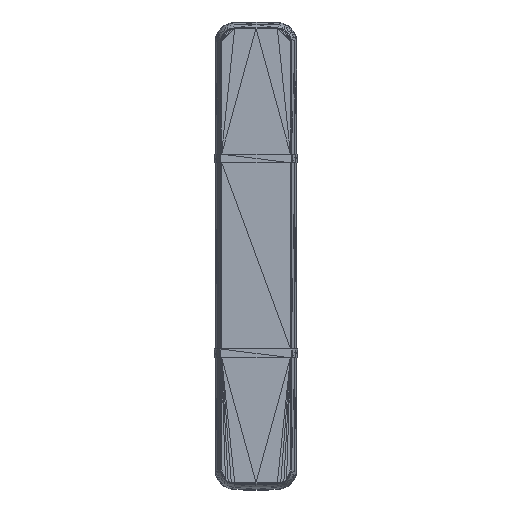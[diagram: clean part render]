
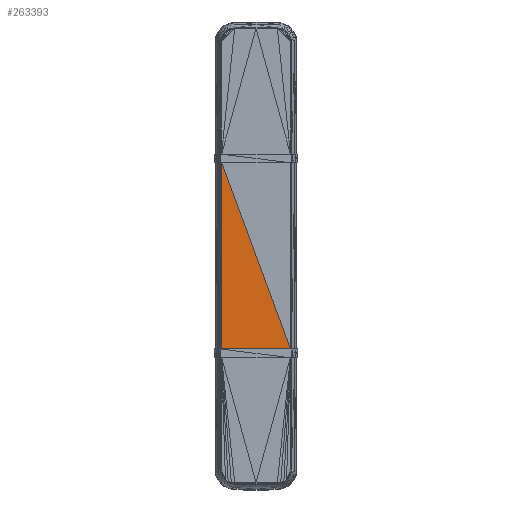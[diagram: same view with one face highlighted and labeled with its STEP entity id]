
A CAD part, top view. The second image highlights one B-rep face of the part: STEP entity #263393.
In plain terms, the highlighted planar face has unit normal (0, 0, 1).
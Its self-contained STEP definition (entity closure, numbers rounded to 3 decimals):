
#258539 = VERTEX_POINT('',#258540);
#258540 = CARTESIAN_POINT('',(233.984,842.,
    65.5));
#258575 = PLANE('',#258576);
#258576 = AXIS2_PLACEMENT_3D('',#258577,#258578,#258579);
#258577 = CARTESIAN_POINT('',(233.825,602.66,
    65.483));
#258578 = DIRECTION('',(-0.106,0.,
    0.994));
#258579 = DIRECTION('',(0.994,0.,
    0.106));
#258681 = PLANE('',#258682);
#258682 = AXIS2_PLACEMENT_3D('',#258683,#258684,#258685);
#258683 = CARTESIAN_POINT('',(358.934,638.864,
    65.5));
#258684 = DIRECTION('',(0.,0.,1.));
#258685 = DIRECTION('',(0.,1.,0.));
#262138 = VERTEX_POINT('',#262139);
#262139 = CARTESIAN_POINT('',(411.157,363.,
    65.5));
#262593 = EDGE_CURVE('',#262594,#258539,#262596,.T.);
#262594 = VERTEX_POINT('',#262595);
#262595 = CARTESIAN_POINT('',(233.984,363.,
    65.5));
#262596 = SURFACE_CURVE('',#262597,(#262601,#262608),.PCURVE_S1.);
#262597 = LINE('',#262598,#262599);
#262598 = CARTESIAN_POINT('',(233.984,363.,
    65.5));
#262599 = VECTOR('',#262600,1.);
#262600 = DIRECTION('',(0.,1.,0.));
#262601 = PCURVE('',#258575,#262602);
#262602 = DEFINITIONAL_REPRESENTATION('',(#262603),#262607);
#262603 = LINE('',#262604,#262605);
#262604 = CARTESIAN_POINT('',(0.16,-239.659));
#262605 = VECTOR('',#262606,1.);
#262606 = DIRECTION('',(0.,1.));
#262607 = ( GEOMETRIC_REPRESENTATION_CONTEXT(2) 
PARAMETRIC_REPRESENTATION_CONTEXT() REPRESENTATION_CONTEXT('2D SPACE',''
  ) );
#262608 = PCURVE('',#262609,#262614);
#262609 = PLANE('',#262610);
#262610 = AXIS2_PLACEMENT_3D('',#262611,#262612,#262613);
#262611 = CARTESIAN_POINT('',(286.206,566.136,
    65.5));
#262612 = DIRECTION('',(0.,0.,1.));
#262613 = DIRECTION('',(1.,0.,0.));
#262614 = DEFINITIONAL_REPRESENTATION('',(#262615),#262618);
#262615 = B_SPLINE_CURVE_WITH_KNOTS('',1,(#262616,#262617),
  .UNSPECIFIED.,.F.,.F.,(2,2),(0.,479.),
  .PIECEWISE_BEZIER_KNOTS.);
#262616 = CARTESIAN_POINT('',(-52.222,-203.136));
#262617 = CARTESIAN_POINT('',(-52.222,275.864));
#262618 = ( GEOMETRIC_REPRESENTATION_CONTEXT(2) 
PARAMETRIC_REPRESENTATION_CONTEXT() REPRESENTATION_CONTEXT('2D SPACE',''
  ) );
#263374 = EDGE_CURVE('',#258539,#262138,#263375,.T.);
#263375 = SURFACE_CURVE('',#263376,(#263380,#263387),.PCURVE_S1.);
#263376 = LINE('',#263377,#263378);
#263377 = CARTESIAN_POINT('',(233.984,842.,
    65.5));
#263378 = VECTOR('',#263379,1.);
#263379 = DIRECTION('',(0.347,-0.938,0.));
#263380 = PCURVE('',#258681,#263381);
#263381 = DEFINITIONAL_REPRESENTATION('',(#263382),#263386);
#263382 = LINE('',#263383,#263384);
#263383 = CARTESIAN_POINT('',(203.136,124.951));
#263384 = VECTOR('',#263385,1.);
#263385 = DIRECTION('',(-0.938,-0.347));
#263386 = ( GEOMETRIC_REPRESENTATION_CONTEXT(2) 
PARAMETRIC_REPRESENTATION_CONTEXT() REPRESENTATION_CONTEXT('2D SPACE',''
  ) );
#263387 = PCURVE('',#262609,#263388);
#263388 = DEFINITIONAL_REPRESENTATION('',(#263389),#263392);
#263389 = B_SPLINE_CURVE_WITH_KNOTS('',1,(#263390,#263391),
  .UNSPECIFIED.,.F.,.F.,(2,2),(0.,510.716),
  .PIECEWISE_BEZIER_KNOTS.);
#263390 = CARTESIAN_POINT('',(-52.222,275.864));
#263391 = CARTESIAN_POINT('',(124.951,-203.136));
#263392 = ( GEOMETRIC_REPRESENTATION_CONTEXT(2) 
PARAMETRIC_REPRESENTATION_CONTEXT() REPRESENTATION_CONTEXT('2D SPACE',''
  ) );
#263393 = ADVANCED_FACE('',(#263394),#262609,.T.);
#263394 = FACE_BOUND('',#263395,.T.);
#263395 = EDGE_LOOP('',(#263396,#263421,#263422));
#263396 = ORIENTED_EDGE('',*,*,#263397,.T.);
#263397 = EDGE_CURVE('',#262594,#262138,#263398,.T.);
#263398 = SURFACE_CURVE('',#263399,(#263403,#263410),.PCURVE_S1.);
#263399 = LINE('',#263400,#263401);
#263400 = CARTESIAN_POINT('',(233.984,363.,
    65.5));
#263401 = VECTOR('',#263402,1.);
#263402 = DIRECTION('',(1.,0.,0.));
#263403 = PCURVE('',#262609,#263404);
#263404 = DEFINITIONAL_REPRESENTATION('',(#263405),#263409);
#263405 = LINE('',#263406,#263407);
#263406 = CARTESIAN_POINT('',(-52.222,-203.136));
#263407 = VECTOR('',#263408,1.);
#263408 = DIRECTION('',(1.,0.));
#263409 = ( GEOMETRIC_REPRESENTATION_CONTEXT(2) 
PARAMETRIC_REPRESENTATION_CONTEXT() REPRESENTATION_CONTEXT('2D SPACE',''
  ) );
#263410 = PCURVE('',#263411,#263416);
#263411 = PLANE('',#263412);
#263412 = AXIS2_PLACEMENT_3D('',#263413,#263414,#263415);
#263413 = CARTESIAN_POINT('',(321.19,363.,
    66.262));
#263414 = DIRECTION('',(0.,1.,0.));
#263415 = DIRECTION('',(0.,0.,1.));
#263416 = DEFINITIONAL_REPRESENTATION('',(#263417),#263420);
#263417 = B_SPLINE_CURVE_WITH_KNOTS('',1,(#263418,#263419),
  .UNSPECIFIED.,.F.,.F.,(2,2),(0.,177.173),
  .PIECEWISE_BEZIER_KNOTS.);
#263418 = CARTESIAN_POINT('',(-0.762,-87.206));
#263419 = CARTESIAN_POINT('',(-0.762,89.967));
#263420 = ( GEOMETRIC_REPRESENTATION_CONTEXT(2) 
PARAMETRIC_REPRESENTATION_CONTEXT() REPRESENTATION_CONTEXT('2D SPACE',''
  ) );
#263421 = ORIENTED_EDGE('',*,*,#263374,.F.);
#263422 = ORIENTED_EDGE('',*,*,#262593,.F.);
